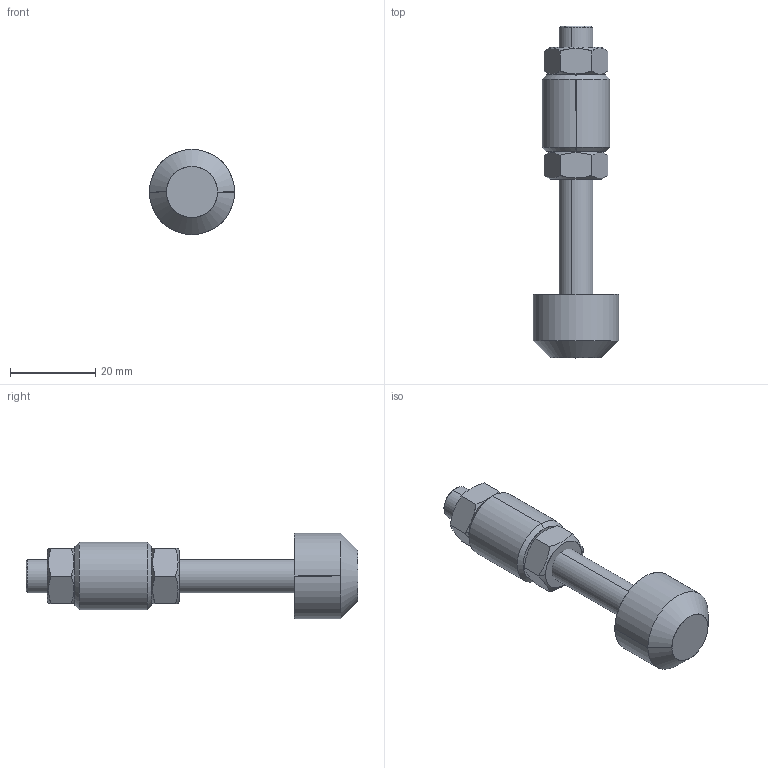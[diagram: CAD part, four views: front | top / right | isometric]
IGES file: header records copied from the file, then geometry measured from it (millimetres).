
Start section: SolidWorks IGES file using analytic representation for surfaces
Global section: file name: C:\Projetos\Ponteiras\BRB\BRB-M8.IGS; native system: SolidWorks 2015; preprocessor: SolidWorks 2015; author: Ricardo; date: 160725.150442; units: millimetre
Bounding box: 20 x 78 x 20 mm (x, y, z)
Surface area: 6254 mm2 (no closed solid volume)
Topology: 0 solids, 0 shells, 68 faces, 1096 edges, 1094 vertices
Faces by surface type: revolution 46, bspline 22
